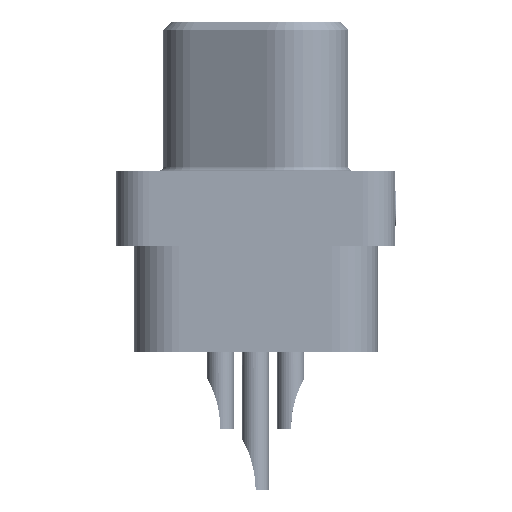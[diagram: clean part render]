
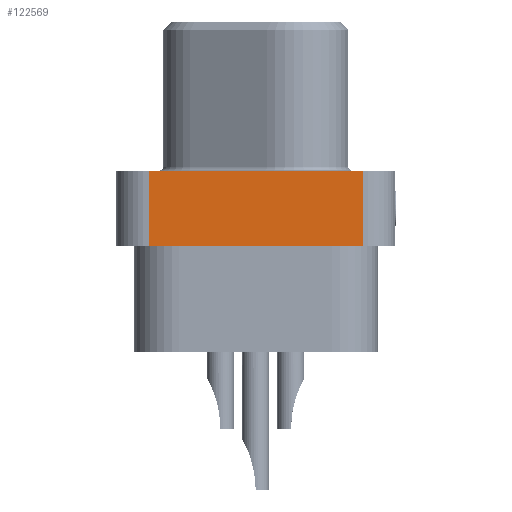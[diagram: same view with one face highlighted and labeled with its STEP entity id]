
A CAD part, left-side view. The second image highlights one B-rep face of the part: STEP entity #122569.
In plain terms, the highlighted planar face has unit normal (-1, 0, 0).
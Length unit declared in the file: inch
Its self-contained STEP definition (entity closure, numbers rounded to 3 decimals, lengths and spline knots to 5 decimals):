
#6143 = VECTOR ( 'NONE', #27662, 39.37008 ) ;
#8558 = CARTESIAN_POINT ( 'NONE',  ( -0.8625, -0.1316, 0.042 ) ) ;
#12416 = CARTESIAN_POINT ( 'NONE',  ( -0.8625, -0.1316, -0.051 ) ) ;
#13915 = LINE ( 'NONE', #52227, #56990 ) ;
#15160 = DIRECTION ( 'NONE',  ( 0., 1., 0. ) ) ;
#15431 = VERTEX_POINT ( 'NONE', #51652 ) ;
#18780 = CARTESIAN_POINT ( 'NONE',  ( -0.8625, -0.1316, -0.051 ) ) ;
#25666 = VECTOR ( 'NONE', #57492, 39.37008 ) ;
#27662 = DIRECTION ( 'NONE',  ( 0., 0., -1. ) ) ;
#36246 = PLANE ( 'NONE',  #44642 ) ;
#37719 = LINE ( 'NONE', #122570, #6143 ) ;
#39812 = CARTESIAN_POINT ( 'NONE',  ( -0.8625, 0.1314, -0.051 ) ) ;
#40676 = VECTOR ( 'NONE', #69054, 39.37008 ) ;
#42434 = VERTEX_POINT ( 'NONE', #18780 ) ;
#44642 = AXIS2_PLACEMENT_3D ( 'NONE', #8558, #65827, #102862 ) ;
#51652 = CARTESIAN_POINT ( 'NONE',  ( -0.8625, -0.1316, 0.042 ) ) ;
#52188 = CARTESIAN_POINT ( 'NONE',  ( -0.8625, 0.1314, 0.042 ) ) ;
#52227 = CARTESIAN_POINT ( 'NONE',  ( -0.8625, -0.1316, 0.042 ) ) ;
#53983 = EDGE_CURVE ( 'NONE', #54528, #62831, #58745, .T. ) ;
#54528 = VERTEX_POINT ( 'NONE', #52188 ) ;
#56990 = VECTOR ( 'NONE', #15160, 39.37008 ) ;
#57492 = DIRECTION ( 'NONE',  ( 0., 0., -1. ) ) ;
#58745 = LINE ( 'NONE', #87671, #25666 ) ;
#62831 = VERTEX_POINT ( 'NONE', #39812 ) ;
#65827 = DIRECTION ( 'NONE',  ( -1., 0., 0. ) ) ;
#68062 = ORIENTED_EDGE ( 'NONE', *, *, #89777, .T. ) ;
#69054 = DIRECTION ( 'NONE',  ( 0., 1., 0. ) ) ;
#69583 = ORIENTED_EDGE ( 'NONE', *, *, #94213, .F. ) ;
#73422 = FACE_OUTER_BOUND ( 'NONE', #77510, .T. ) ;
#77510 = EDGE_LOOP ( 'NONE', ( #88909, #69583, #68062, #91005 ) ) ;
#87671 = CARTESIAN_POINT ( 'NONE',  ( -0.8625, 0.1314, 0.042 ) ) ;
#87897 = LINE ( 'NONE', #12416, #40676 ) ;
#88909 = ORIENTED_EDGE ( 'NONE', *, *, #106215, .F. ) ;
#89777 = EDGE_CURVE ( 'NONE', #15431, #54528, #13915, .T. ) ;
#91005 = ORIENTED_EDGE ( 'NONE', *, *, #53983, .T. ) ;
#94213 = EDGE_CURVE ( 'NONE', #15431, #42434, #37719, .T. ) ;
#102862 = DIRECTION ( 'NONE',  ( 0., 0., 1. ) ) ;
#106215 = EDGE_CURVE ( 'NONE', #42434, #62831, #87897, .T. ) ;
#122569 = ADVANCED_FACE ( 'NONE', ( #73422 ), #36246, .T. ) ;
#122570 = CARTESIAN_POINT ( 'NONE',  ( -0.8625, -0.1316, 0.042 ) ) ;
